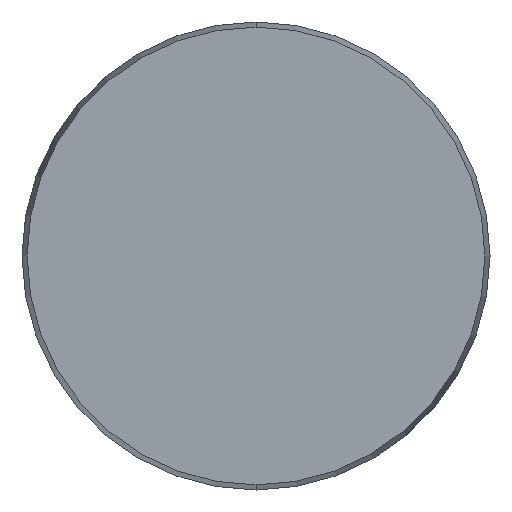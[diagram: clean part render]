
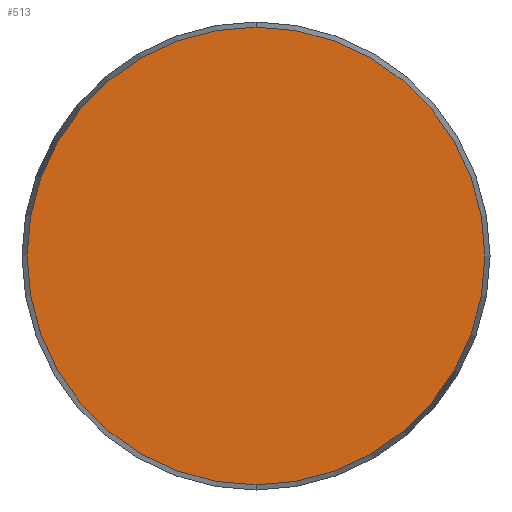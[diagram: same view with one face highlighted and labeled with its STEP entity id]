
A CAD part, front view. The second image highlights one B-rep face of the part: STEP entity #513.
In plain terms, the highlighted planar face has unit normal (0, -1, 0).
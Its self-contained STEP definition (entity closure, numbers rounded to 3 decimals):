
#26 = CARTESIAN_POINT ( 'NONE',  ( 0., 0., -15.65 ) ) ;
#31 = CARTESIAN_POINT ( 'NONE',  ( 0., 0., 15.65 ) ) ;
#47 = ORIENTED_EDGE ( 'NONE', *, *, #418, .F. ) ;
#58 = DIRECTION ( 'NONE',  ( 0., 1., 0. ) ) ;
#87 = VERTEX_POINT ( 'NONE', #31 ) ;
#100 = EDGE_LOOP ( 'NONE', ( #47, #242 ) ) ;
#137 = FACE_OUTER_BOUND ( 'NONE', #100, .T. ) ;
#140 = DIRECTION ( 'NONE',  ( 0., 0., 1. ) ) ;
#221 = DIRECTION ( 'NONE',  ( 0., 1., 0. ) ) ;
#239 = VERTEX_POINT ( 'NONE', #26 ) ;
#240 = DIRECTION ( 'NONE',  ( 0., 1., 0. ) ) ;
#242 = ORIENTED_EDGE ( 'NONE', *, *, #416, .F. ) ;
#249 = CARTESIAN_POINT ( 'NONE',  ( 15.65, 0., 0. ) ) ;
#251 = DIRECTION ( 'NONE',  ( 0., 0., 1. ) ) ;
#252 = PLANE ( 'NONE',  #425 ) ;
#266 = CARTESIAN_POINT ( 'NONE',  ( 0., 0., 0. ) ) ;
#290 = DIRECTION ( 'NONE',  ( 0., 0., 1. ) ) ;
#306 = CARTESIAN_POINT ( 'NONE',  ( 0., 0., 0. ) ) ;
#416 = EDGE_CURVE ( 'NONE', #239, #87, #434, .T. ) ;
#418 = EDGE_CURVE ( 'NONE', #87, #239, #497, .T. ) ;
#425 = AXIS2_PLACEMENT_3D ( 'NONE', #249, #58, #290 ) ;
#434 = CIRCLE ( 'NONE', #467, 15.65 ) ;
#463 = AXIS2_PLACEMENT_3D ( 'NONE', #306, #221, #140 ) ;
#467 = AXIS2_PLACEMENT_3D ( 'NONE', #266, #240, #251 ) ;
#497 = CIRCLE ( 'NONE', #463, 15.65 ) ;
#513 = ADVANCED_FACE ( '1', ( #137 ), #252, .F. ) ;
